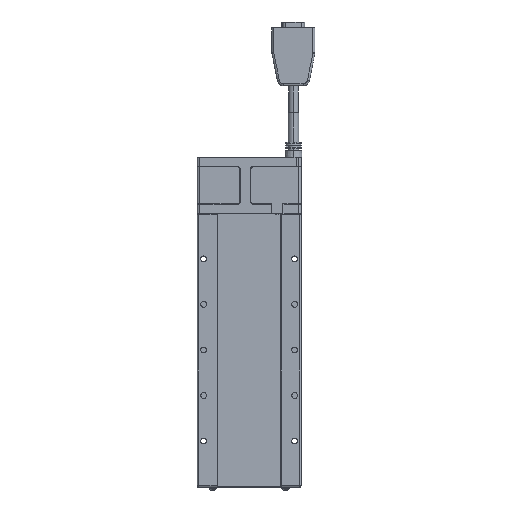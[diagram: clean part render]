
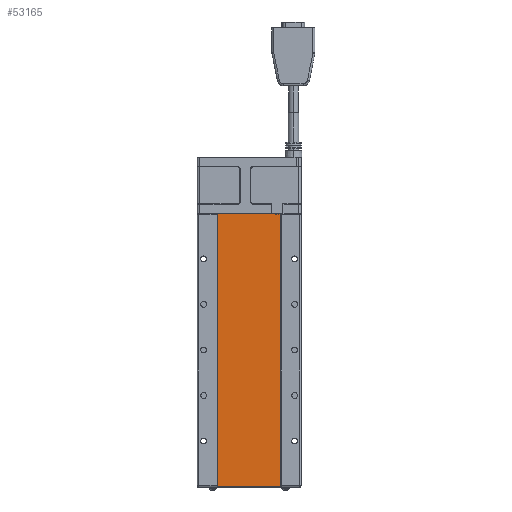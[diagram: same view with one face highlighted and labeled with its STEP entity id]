
A CAD part, front view. The second image highlights one B-rep face of the part: STEP entity #53165.
In plain terms, the highlighted planar face has unit normal (0, -1, 0).
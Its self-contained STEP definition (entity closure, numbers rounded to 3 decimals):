
#281 = EDGE_CURVE ( 'NONE', #71863, #13223, #20565, .T. ) ;
#440 = CARTESIAN_POINT ( 'NONE',  ( -24.3, 0.5, 209.8 ) ) ;
#717 = ORIENTED_EDGE ( 'NONE', *, *, #126304, .T. ) ;
#1712 = DIRECTION ( 'NONE',  ( 0., 1., 0. ) ) ;
#1947 = LINE ( 'NONE', #69068, #19377 ) ;
#2429 = LINE ( 'NONE', #92967, #12479 ) ;
#5133 = DIRECTION ( 'NONE',  ( 0., 0., -1. ) ) ;
#12035 = CARTESIAN_POINT ( 'NONE',  ( 22.3, 0.5, 209.8 ) ) ;
#12369 = EDGE_CURVE ( 'NONE', #75180, #43897, #55158, .T. ) ;
#12479 = VECTOR ( 'NONE', #83221, 1000. ) ;
#12853 = DIRECTION ( 'NONE',  ( 0., 0., 1. ) ) ;
#13223 = VERTEX_POINT ( 'NONE', #115925 ) ;
#13413 = ORIENTED_EDGE ( 'NONE', *, *, #35925, .T. ) ;
#16439 = LINE ( 'NONE', #24309, #102757 ) ;
#17671 = LINE ( 'NONE', #97093, #43011 ) ;
#19377 = VECTOR ( 'NONE', #29370, 1000. ) ;
#19811 = AXIS2_PLACEMENT_3D ( 'NONE', #79096, #118796, #29606 ) ;
#20007 = DIRECTION ( 'NONE',  ( -1., 0., 0. ) ) ;
#20565 = CIRCLE ( 'NONE', #91293, 0.5 ) ;
#20813 = CARTESIAN_POINT ( 'NONE',  ( 20.3, 0.5, 209.8 ) ) ;
#21107 = AXIS2_PLACEMENT_3D ( 'NONE', #76862, #68374, #27383 ) ;
#21326 = CARTESIAN_POINT ( 'NONE',  ( 24.3, 0.5, 0.2 ) ) ;
#21952 = ORIENTED_EDGE ( 'NONE', *, *, #36992, .T. ) ;
#22131 = CARTESIAN_POINT ( 'NONE',  ( 22.3, 0.5, 209.3 ) ) ;
#22755 = ORIENTED_EDGE ( 'NONE', *, *, #90592, .T. ) ;
#23516 = ORIENTED_EDGE ( 'NONE', *, *, #73069, .T. ) ;
#24309 = CARTESIAN_POINT ( 'NONE',  ( -24.3, 0.5, 209.8 ) ) ;
#24332 = ORIENTED_EDGE ( 'NONE', *, *, #29413, .T. ) ;
#25759 = DIRECTION ( 'NONE',  ( 0., -1., 0. ) ) ;
#27383 = DIRECTION ( 'NONE',  ( -1., 0., 0. ) ) ;
#29370 = DIRECTION ( 'NONE',  ( -1., 0., 0. ) ) ;
#29398 = CIRCLE ( 'NONE', #21107, 0.5 ) ;
#29413 = EDGE_CURVE ( 'NONE', #13223, #112205, #46190, .T. ) ;
#29606 = DIRECTION ( 'NONE',  ( -1., 0., 0. ) ) ;
#35024 = DIRECTION ( 'NONE',  ( 0., -1., 0. ) ) ;
#35841 = EDGE_CURVE ( 'NONE', #75835, #78452, #2429, .T. ) ;
#35925 = EDGE_CURVE ( 'NONE', #112205, #125163, #54149, .T. ) ;
#36992 = EDGE_CURVE ( 'NONE', #104863, #65066, #29398, .T. ) ;
#38061 = VERTEX_POINT ( 'NONE', #12035 ) ;
#39567 = AXIS2_PLACEMENT_3D ( 'NONE', #116320, #35024, #75960 ) ;
#41032 = LINE ( 'NONE', #20813, #71063 ) ;
#43011 = VECTOR ( 'NONE', #107488, 1000. ) ;
#43897 = VERTEX_POINT ( 'NONE', #102697 ) ;
#46190 = LINE ( 'NONE', #94996, #124804 ) ;
#48500 = CARTESIAN_POINT ( 'NONE',  ( -23.8, 0.5, 209.3 ) ) ;
#48541 = CARTESIAN_POINT ( 'NONE',  ( 20.3, 0.5, 209.8 ) ) ;
#50662 = LINE ( 'NONE', #21326, #74586 ) ;
#52290 = CARTESIAN_POINT ( 'NONE',  ( 24.3, 0.5, 0.7 ) ) ;
#52512 = AXIS2_PLACEMENT_3D ( 'NONE', #440, #1712, #20007 ) ;
#53165 = ADVANCED_FACE ( 'NONE', ( #79896 ), #109169, .F. ) ;
#54149 = CIRCLE ( 'NONE', #39567, 0.5 ) ;
#54647 = EDGE_CURVE ( 'NONE', #65066, #75180, #50662, .T. ) ;
#55158 = CIRCLE ( 'NONE', #19811, 0.5 ) ;
#55717 = DIRECTION ( 'NONE',  ( -1., 0., 0. ) ) ;
#59796 = CARTESIAN_POINT ( 'NONE',  ( -24.3, 0.5, 0.7 ) ) ;
#60508 = DIRECTION ( 'NONE',  ( 0., 0., -1. ) ) ;
#65066 = VERTEX_POINT ( 'NONE', #52290 ) ;
#66120 = VERTEX_POINT ( 'NONE', #48541 ) ;
#68374 = DIRECTION ( 'NONE',  ( 0., -1., 0. ) ) ;
#69068 = CARTESIAN_POINT ( 'NONE',  ( -24.3, 0.5, 209.8 ) ) ;
#69243 = EDGE_CURVE ( 'NONE', #66120, #75835, #41032, .T. ) ;
#71063 = VECTOR ( 'NONE', #60508, 1000. ) ;
#71863 = VERTEX_POINT ( 'NONE', #78018 ) ;
#73069 = EDGE_CURVE ( 'NONE', #43897, #38061, #16439, .T. ) ;
#74586 = VECTOR ( 'NONE', #12853, 1000. ) ;
#75180 = VERTEX_POINT ( 'NONE', #75219 ) ;
#75219 = CARTESIAN_POINT ( 'NONE',  ( 24.3, 0.5, 209.3 ) ) ;
#75835 = VERTEX_POINT ( 'NONE', #94921 ) ;
#75960 = DIRECTION ( 'NONE',  ( -1., 0., 0. ) ) ;
#76862 = CARTESIAN_POINT ( 'NONE',  ( 23.8, 0.5, 0.7 ) ) ;
#78018 = CARTESIAN_POINT ( 'NONE',  ( -23.8, 0.5, 209.8 ) ) ;
#78452 = VERTEX_POINT ( 'NONE', #22131 ) ;
#79096 = CARTESIAN_POINT ( 'NONE',  ( 23.8, 0.5, 209.3 ) ) ;
#79896 = FACE_OUTER_BOUND ( 'NONE', #81601, .T. ) ;
#81601 = EDGE_LOOP ( 'NONE', ( #81791, #116514, #22755, #116246, #24332, #13413, #717, #21952, #107198, #117632, #23516, #126797 ) ) ;
#81791 = ORIENTED_EDGE ( 'NONE', *, *, #35841, .F. ) ;
#83221 = DIRECTION ( 'NONE',  ( 1., 0., 0. ) ) ;
#83735 = CARTESIAN_POINT ( 'NONE',  ( 22.3, 0.5, 209.8 ) ) ;
#88147 = EDGE_CURVE ( 'NONE', #78452, #38061, #102596, .T. ) ;
#90592 = EDGE_CURVE ( 'NONE', #66120, #71863, #1947, .T. ) ;
#91293 = AXIS2_PLACEMENT_3D ( 'NONE', #48500, #25759, #55717 ) ;
#92967 = CARTESIAN_POINT ( 'NONE',  ( 20.3, 0.5, 209.3 ) ) ;
#94921 = CARTESIAN_POINT ( 'NONE',  ( 20.3, 0.5, 209.3 ) ) ;
#94996 = CARTESIAN_POINT ( 'NONE',  ( -24.3, 0.5, 0.2 ) ) ;
#97093 = CARTESIAN_POINT ( 'NONE',  ( -24.3, 0.5, 0.2 ) ) ;
#99052 = CARTESIAN_POINT ( 'NONE',  ( 23.8, 0.5, 0.2 ) ) ;
#102023 = VECTOR ( 'NONE', #103247, 1000. ) ;
#102596 = LINE ( 'NONE', #83735, #102023 ) ;
#102697 = CARTESIAN_POINT ( 'NONE',  ( 23.8, 0.5, 209.8 ) ) ;
#102757 = VECTOR ( 'NONE', #105592, 1000. ) ;
#103247 = DIRECTION ( 'NONE',  ( 0., 0., 1. ) ) ;
#104863 = VERTEX_POINT ( 'NONE', #99052 ) ;
#105592 = DIRECTION ( 'NONE',  ( -1., 0., 0. ) ) ;
#107198 = ORIENTED_EDGE ( 'NONE', *, *, #54647, .T. ) ;
#107488 = DIRECTION ( 'NONE',  ( 1., 0., 0. ) ) ;
#109169 = PLANE ( 'NONE',  #52512 ) ;
#112205 = VERTEX_POINT ( 'NONE', #59796 ) ;
#115925 = CARTESIAN_POINT ( 'NONE',  ( -24.3, 0.5, 209.3 ) ) ;
#116246 = ORIENTED_EDGE ( 'NONE', *, *, #281, .T. ) ;
#116320 = CARTESIAN_POINT ( 'NONE',  ( -23.8, 0.5, 0.7 ) ) ;
#116514 = ORIENTED_EDGE ( 'NONE', *, *, #69243, .F. ) ;
#117632 = ORIENTED_EDGE ( 'NONE', *, *, #12369, .T. ) ;
#118796 = DIRECTION ( 'NONE',  ( 0., -1., 0. ) ) ;
#123195 = CARTESIAN_POINT ( 'NONE',  ( -23.8, 0.5, 0.2 ) ) ;
#124804 = VECTOR ( 'NONE', #5133, 1000. ) ;
#125163 = VERTEX_POINT ( 'NONE', #123195 ) ;
#126304 = EDGE_CURVE ( 'NONE', #125163, #104863, #17671, .T. ) ;
#126797 = ORIENTED_EDGE ( 'NONE', *, *, #88147, .F. ) ;
